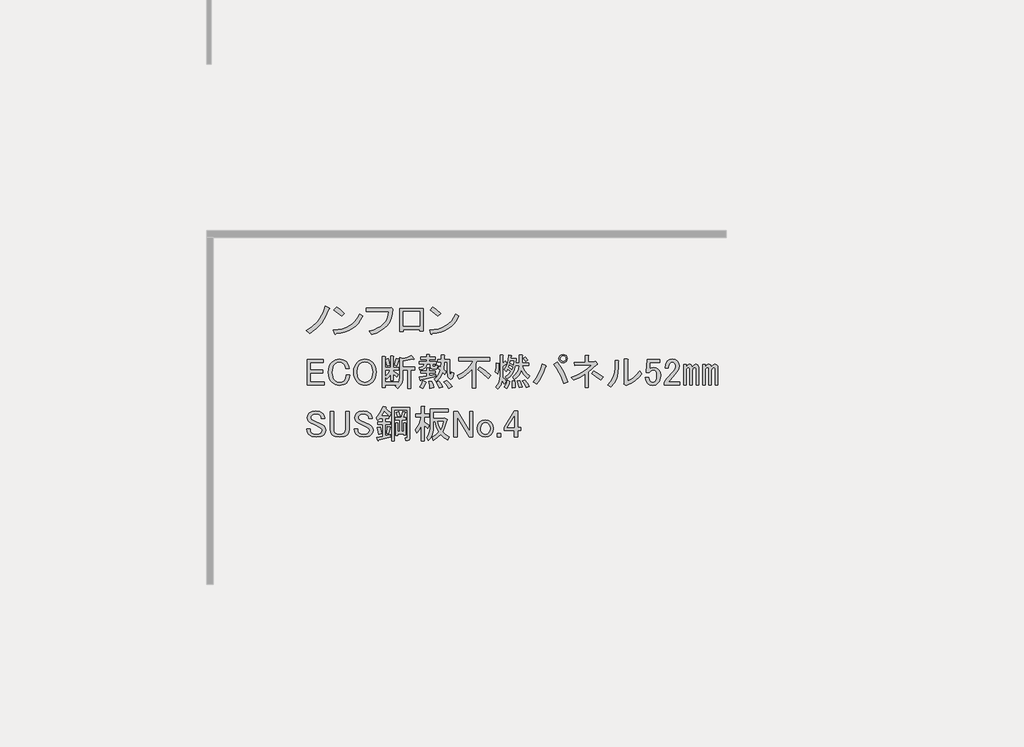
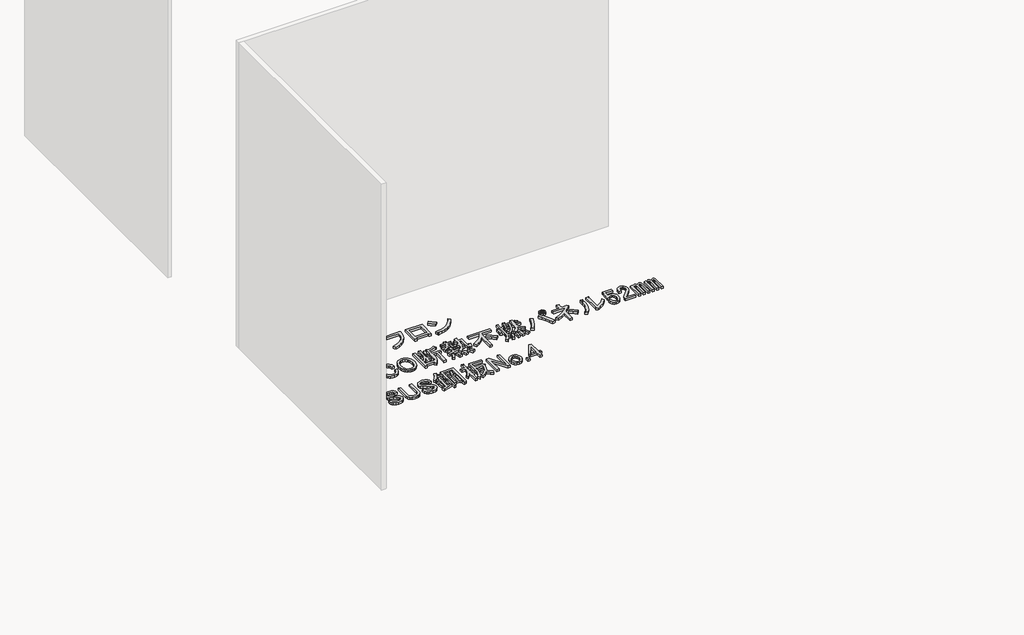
# One storey, part 107 of 117: 1 proxy.
"""IFC4 building model written with IfcOpenShell, lengths in millimetres."""

from ifc_helpers import new_model, si_unit, frame, origin, place, context, project, spatial, polyline, outline, extrude, element, save

model = new_model("IFC4")

# Units and contexts
model_context = context("Model", 3, world=origin())
ifc_project = project(units=[si_unit("LENGTHUNIT", "METRE", prefix="MILLI")], contexts=[model_context])

# Site, building, storey
site = spatial("IfcSite", under=ifc_project)
building = spatial("IfcBuilding", under=site)
storey = spatial("IfcBuildingStorey", under=building, Name="レベル 1", Elevation=500.0)

# Proxy
placement = place(None, origin())
element("IfcBuildingElementProxy", 1, Name="200㎜\u3000MS Pゴシック", ObjectType="200㎜\u3000MS Pゴシック", at=placement, inside=storey, context=model_context, shape_type="SweptSolid", body=[
    extrude(outline(polyline([(48940.1706985, 7396.4503118), (48914.5952502, 7336.6784775), (48886.146156, 7290.7001434), (48844.4782907, 7245.2965385), (48795.3389462, 7207.939142), (48767.7519457, 7229.7788507), (48815.4544673, 7260.2394971), (48855.1107805, 7298.7463519), (48872.4963381, 7322.6694538), (48887.8703435, 7350.7593423), (48901.2327969, 7383.0160173), (48912.5836981, 7419.4394788), (48943.6190736, 7405.6459786), (48946.7800841, 7401.0481452), (48940.1706985, 7396.4503118)])), frame((0.0, 0.0, 500.0), z_axis=(0.0, 0.0, 1.0), x_axis=(1.0, 0.0, 0.0)), (0.0, 0.0, 1.0), 25.0),
    extrude(outline(polyline([(49039.8977052, 7341.2763109), (48981.2753292, 7388.4041033), (49000.8161212, 7412.5427287), (49028.1157571, 7392.7145721), (49061.7374138, 7363.1160196), (49039.8977052, 7341.2763109)])), frame((0.0, 0.0, 500.0), z_axis=(0.0, 0.0, 1.0), x_axis=(1.0, 0.0, 0.0)), (0.0, 0.0, 1.0), 25.0),
    extrude(outline(polyline([(49201.9713328, 7341.2763109), (49185.447869, 7311.534076), (49166.3381239, 7285.5275808), (49144.6420975, 7263.2568252), (49120.3597898, 7244.7218093), (49093.4912008, 7229.922533), (49064.0363306, 7218.8589964), (49031.995179, 7211.5311994), (48997.3677461, 7207.939142), (48991.6204544, 7199.8929336), (48985.8731626, 7205.6402253), (48976.6774958, 7235.5261425), (49012.5082679, 7238.2022252), (49045.2857912, 7244.5062859), (49075.0100658, 7254.4383244), (49101.6810916, 7267.9983409), (49125.2988687, 7285.1863354), (49145.863397, 7306.0023077), (49163.3746766, 7330.446258), (49177.8327074, 7358.5181862), (49201.9713328, 7341.2763109)])), frame((0.0, 0.0, 500.0), z_axis=(0.0, 0.0, 1.0), x_axis=(1.0, 0.0, 0.0)), (0.0, 0.0, 1.0), 25.0),
    extrude(outline(polyline([(49252.7314136, 7226.3304757), (49286.514713, 7236.0110702), (49316.0234641, 7248.3857078), (49341.257667, 7263.4543884), (49362.2173217, 7281.217112), (49378.902428, 7301.6738786), (49391.3129862, 7324.8246882), (49399.4489961, 7350.6695409), (49403.3104577, 7379.2084365), (49230.8917049, 7379.2084365), (49230.8917049, 7404.4965202), (49405.6093744, 7404.4965202), (49421.7017914, 7407.9448953), (49434.3458332, 7396.4503118), (49430.825617, 7359.9550091), (49422.5638851, 7326.9080815), (49409.5606375, 7297.3095289), (49391.8158742, 7271.1593514), (49369.3295952, 7248.457549), (49342.1018005, 7229.2041216), (49310.1324901, 7213.3990692), (49273.421664, 7201.0423919), (49252.7314136, 7226.3304757)])), frame((0.0, 0.0, 500.0), z_axis=(0.0, 0.0, 1.0), x_axis=(1.0, 0.0, 0.0)), (0.0, 0.0, 1.0), 25.0),
    extrude(outline(polyline([(49667.455987, 7227.479934), (49641.0184449, 7227.479934), (49641.0184449, 7240.1239759), (49513.4285679, 7240.1239759), (49513.4285679, 7221.7326423), (49486.9910258, 7221.7326423), (49486.9910258, 7401.0481452), (49667.455987, 7401.0481452), (49667.455987, 7227.479934)]), holes=[polyline([(49513.4285679, 7375.7600614), (49513.4285679, 7265.4120596), (49641.0184449, 7265.4120596), (49641.0184449, 7375.7600614), (49513.4285679, 7375.7600614)])]), frame((0.0, 0.0, 500.0), z_axis=(0.0, 0.0, 1.0), x_axis=(1.0, 0.0, 0.0)), (0.0, 0.0, 1.0), 25.0),
    extrude(outline(polyline([(49943.5099049, 7341.2763109), (49926.9864411, 7311.534076), (49907.876696, 7285.5275808), (49886.1806696, 7263.2568252), (49861.8983619, 7244.7218093), (49835.0297729, 7229.922533), (49805.5749026, 7218.8589964), (49773.5337511, 7211.5311994), (49738.9063182, 7207.939142), (49733.1590264, 7199.8929336), (49727.4117347, 7205.6402253), (49718.2160679, 7235.5261425), (49754.0468399, 7238.2022252), (49786.8243633, 7244.5062859), (49816.5486378, 7254.4383244), (49843.2196637, 7267.9983409), (49866.8374407, 7285.1863354), (49887.4019691, 7306.0023077), (49904.9132486, 7330.446258), (49919.3712795, 7358.5181862), (49943.5099049, 7341.2763109)])), frame((0.0, 0.0, 500.0), z_axis=(0.0, 0.0, 1.0), x_axis=(1.0, 0.0, 0.0)), (0.0, 0.0, 1.0), 25.0),
    extrude(outline(polyline([(49781.4362772, 7341.2763109), (49722.8139013, 7388.4041033), (49742.3546933, 7412.5427287), (49769.6543291, 7392.7145721), (49803.2759859, 7363.1160196), (49781.4362772, 7341.2763109)])), frame((0.0, 0.0, 500.0), z_axis=(0.0, 0.0, 1.0), x_axis=(1.0, 0.0, 0.0)), (0.0, 0.0, 1.0), 25.0),
    extrude(outline(polyline([(48773.4992375, 7007.9448953), (48899.9396562, 7007.9448953), (48899.9396562, 6986.1051866), (48799.9367796, 6986.1051866), (48799.9367796, 6925.183894), (48893.0429061, 6925.183894), (48893.0429061, 6903.3441853), (48799.9367796, 6903.3441853), (48799.9367796, 6833.2272258), (48905.686948, 6833.2272258), (48905.686948, 6811.3875171), (48773.4992375, 6811.3875171), (48773.4992375, 7007.9448953)])), frame((0.0, 0.0, 500.0), z_axis=(0.0, 0.0, 1.0), x_axis=(1.0, 0.0, 0.0)), (0.0, 0.0, 1.0), 25.0),
    extrude(outline(polyline([(48937.7798252, 6909.091477), (48939.5758538, 6933.014579), (48944.9639399, 6954.2077173), (48953.9440832, 6972.6708921), (48966.516284, 6988.4041033), (48991.5170031, 7004.7838848), (49022.8397432, 7010.243812), (49053.5877541, 7005.358614), (49076.8642858, 6990.70302), (49092.6693381, 6967.1391238), (49098.7039944, 6937.8279358), (49071.116994, 6937.8279358), (49066.231796, 6959.0929153), (49056.1740354, 6974.6106031), (49040.9437123, 6984.9557283), (49022.8397432, 6988.4041033), (49003.2989512, 6984.3809991), (48986.0570759, 6972.3116864), (48977.0050914, 6960.6015794), (48970.5393882, 6946.1615089), (48965.3668256, 6909.091477), (48970.5393882, 6872.0214452), (48977.0050914, 6857.5813746), (48986.0570759, 6845.8712677), (49002.7242221, 6834.6640487), (49022.8397432, 6830.9283091), (49043.242629, 6834.0893196), (49058.4729521, 6843.572351), (49070.5422648, 6863.1131429), (49074.5653691, 6889.550685), (49102.1523695, 6889.550685), (49095.8303486, 6854.7795699), (49088.7899162, 6840.6268639), (49079.1632025, 6828.6293924), (49068.3151893, 6820.0802959), (49055.3119417, 6813.9737984), (49022.8397432, 6809.0886004), (48991.5170031, 6814.5485276), (48966.516284, 6830.9283091), (48953.9440832, 6846.5896791), (48944.9639399, 6864.8373305), (48939.5758538, 6885.6712631), (48937.7798252, 6909.091477)])), frame((0.0, 0.0, 500.0), z_axis=(0.0, 0.0, 1.0), x_axis=(1.0, 0.0, 0.0)), (0.0, 0.0, 1.0), 25.0),
    extrude(outline(polyline([(49133.1417667, 6910.2409354), (49134.8659542, 6933.0864201), (49140.0385168, 6953.3456236), (49148.6594544, 6971.0185457), (49160.7287671, 6986.1051866), (49173.4446501, 6996.6658352), (49187.4536738, 7004.2091557), (49202.7558381, 7008.7351479), (49219.3511431, 7010.243812), (49235.946448, 7008.7351479), (49251.2486123, 7004.2091557), (49265.257636, 6996.6658352), (49277.973519, 6986.1051866), (49290.0428317, 6971.0185457), (49298.6637694, 6953.3456236), (49303.836332, 6933.0864201), (49305.5605195, 6910.2409354), (49303.836332, 6887.3954506), (49298.6637694, 6867.1362472), (49290.0428317, 6849.463325), (49277.973519, 6834.3766841), (49265.257636, 6823.8160355), (49251.2486123, 6816.2727151), (49235.946448, 6811.7467228), (49219.3511431, 6810.2380587), (49202.7558381, 6811.7467228), (49187.4536738, 6816.2727151), (49173.4446501, 6823.8160355), (49160.7287671, 6834.3766841), (49148.6594544, 6849.463325), (49140.0385168, 6867.1362472), (49134.8659542, 6887.3954506), (49133.1417667, 6910.2409354)]), holes=[polyline([(49219.3511431, 6988.4041033), (49198.6608927, 6984.0936345), (49180.2695591, 6971.162228), (49171.7204626, 6960.0268502), (49165.6139651, 6946.1615089), (49160.7287671, 6910.2409354), (49165.6139651, 6874.3203619), (49171.7204626, 6860.4550205), (49180.2695591, 6849.3196427), (49198.6608927, 6836.3882363), (49219.3511431, 6832.0777674), (49240.0413934, 6836.3882363), (49258.432727, 6849.3196427), (49266.9818235, 6860.4550205), (49273.088321, 6874.3203619), (49277.973519, 6910.2409354), (49273.088321, 6946.1615089), (49266.9818235, 6960.0268502), (49258.432727, 6971.162228), (49240.0413934, 6984.0936345), (49219.3511431, 6988.4041033)])]), frame((0.0, 0.0, 500.0), z_axis=(0.0, 0.0, 1.0), x_axis=(1.0, 0.0, 0.0)), (0.0, 0.0, 1.0), 25.0),
    extrude(outline(polyline([(49444.3691101, 6964.2654779), (49461.6109854, 7017.1405621), (49482.3012357, 7011.3932704), (49484.0254232, 7008.2322599), (49480.002319, 7005.6459786), (49462.7604437, 6957.3687278), (49444.3691101, 6964.2654779)])), frame((0.0, 0.0, 500.0), z_axis=(0.0, 0.0, 1.0), x_axis=(1.0, 0.0, 0.0)), (0.0, 0.0, 1.0), 25.0),
    extrude(outline(polyline([(49598.3965292, 7012.5427287), (49596.6723417, 7007.9448953), (49589.2008624, 7010.243812), (49512.1871528, 6997.5997701), (49512.1871528, 6948.173061), (49604.143821, 6948.173061), (49604.143821, 6926.3333523), (49573.1084455, 6926.3333523), (49573.1084455, 6786.0994334), (49550.1192785, 6786.0994334), (49550.1192785, 6926.3333523), (49512.1871528, 6926.3333523), (49512.1871528, 6876.9066432), (49509.6008716, 6849.1041193), (49501.8420277, 6824.3189236), (49488.9106212, 6802.551056), (49470.8066522, 6783.8005167), (49453.5647769, 6803.3413086), (49463.9099021, 6812.5369755), (49374.2521506, 6812.5369755), (49374.2521506, 6790.6972668), (49351.2629836, 6790.6972668), (49351.2629836, 7029.784604), (49373.1026922, 7029.784604), (49377.9878902, 7027.4856873), (49374.2521506, 7022.8878539), (49374.2521506, 6947.0236026), (49416.7821096, 6947.0236026), (49416.7821096, 7034.3824374), (49435.1734433, 7034.3824374), (49440.0586413, 7032.0835207), (49436.3229016, 7027.4856873), (49436.3229016, 6947.0236026), (49480.002319, 6947.0236026), (49480.002319, 6928.632269), (49436.3229016, 6928.632269), (49436.3229016, 6919.4366022), (49476.5539439, 6892.9990601), (49462.7604437, 6871.1593514), (49436.3229016, 6897.5968935), (49436.3229016, 6844.7218093), (49416.7821096, 6844.7218093), (49416.7821096, 6892.9990601), (49403.5633386, 6873.1709035), (49389.1951092, 6857.3658512), (49376.5510673, 6875.7571848), (49398.390776, 6899.8958102), (49415.6326513, 6928.632269), (49374.2521506, 6928.632269), (49374.2521506, 6834.3766841), (49471.9561105, 6834.3766841), (49471.9561105, 6820.5831839), (49484.887517, 6844.7218093), (49489.1979858, 6878.0561015), (49489.1979858, 7022.8878539), (49511.0376945, 7017.1405621), (49547.2456326, 7024.6120414), (49577.7062789, 7037.8308125), (49598.3965292, 7012.5427287)])), frame((0.0, 0.0, 500.0), z_axis=(0.0, 0.0, 1.0), x_axis=(1.0, 0.0, 0.0)), (0.0, 0.0, 1.0), 25.0),
    extrude(outline(polyline([(49390.3445675, 6956.2192695), (49377.7005257, 7006.7954369), (49397.2413176, 7013.6921871), (49405.0001615, 6989.5535617), (49409.8853595, 6963.1160196), (49390.3445675, 6956.2192695)])), frame((0.0, 0.0, 500.0), z_axis=(0.0, 0.0, 1.0), x_axis=(1.0, 0.0, 0.0)), (0.0, 0.0, 1.0), 25.0),
    extrude(outline(polyline([(49734.0326148, 6840.1239759), (49744.0903754, 6812.82434), (49748.9755734, 6790.6972668), (49720.2391146, 6784.949975), (49717.6528333, 6806.5023191), (49709.8939894, 6836.6756008), (49734.0326148, 6840.1239759)])), frame((0.0, 0.0, 500.0), z_axis=(0.0, 0.0, 1.0), x_axis=(1.0, 0.0, 0.0)), (0.0, 0.0, 1.0), 25.0),
    extrude(outline(polyline([(49790.356074, 6787.2488917), (49782.022501, 6811.9622463), (49768.5163654, 6833.2272258), (49789.2066157, 6841.2734343), (49806.1611264, 6819.7210902), (49817.9430745, 6796.4445585), (49790.356074, 6787.2488917)])), frame((0.0, 0.0, 500.0), z_axis=(0.0, 0.0, 1.0), x_axis=(1.0, 0.0, 0.0)), (0.0, 0.0, 1.0), 25.0),
    extrude(outline(polyline([(49689.2037391, 6835.5261425), (49692.6521141, 6830.6409445), (49686.9048224, 6827.479934), (49677.1344264, 6801.9044857), (49666.214572, 6782.6510583), (49643.225405, 6794.1456418), (49655.8694469, 6817.709538), (49666.214572, 6844.7218093), (49689.2037391, 6835.5261425)])), frame((0.0, 0.0, 500.0), z_axis=(0.0, 0.0, 1.0), x_axis=(1.0, 0.0, 0.0)), (0.0, 0.0, 1.0), 25.0),
    extrude(outline(polyline([(49721.3885729, 6972.3116864), (49696.1004892, 6972.3116864), (49691.5026558, 6954.8542877), (49681.1575306, 6941.5636755), (49665.0651137, 6932.4398498), (49643.225405, 6927.4828107), (49638.6275716, 6947.0236026), (49663.9156553, 6955.6445403), (49671.3871346, 6962.9723373), (49675.4102388, 6972.3116864), (49639.7770299, 6972.3116864), (49639.7770299, 6990.70302), (49693.8015725, 6990.70302), (49693.8015725, 7007.9448953), (49650.1221551, 7007.9448953), (49650.1221551, 7026.3362289), (49693.8015725, 7026.3362289), (49693.8015725, 7044.7275626), (49715.6412812, 7044.7275626), (49720.5264792, 7042.4286459), (49716.7907395, 7037.8308125), (49716.7907395, 7026.3362289), (49759.3206985, 7026.3362289), (49759.3206985, 7007.9448953), (49716.7907395, 7007.9448953), (49716.7907395, 6990.70302), (49769.6658237, 6990.70302), (49769.6658237, 6972.3116864), (49740.9293649, 6972.3116864), (49740.9293649, 6959.6676445), (49742.3661878, 6954.4950819), (49746.6766567, 6952.7708944), (49757.0217818, 6952.7708944), (49760.7575215, 6955.9319049), (49760.4701569, 6965.4149363), (49780.0109489, 6963.1160196), (49777.137303, 6941.5636755), (49771.8210581, 6936.1755894), (49763.9185319, 6934.3795608), (49739.7799066, 6934.3795608), (49725.9864063, 6939.2647588), (49721.3885729, 6953.9203528), (49721.3885729, 6972.3116864)])), frame((0.0, 0.0, 500.0), z_axis=(0.0, 0.0, 1.0), x_axis=(1.0, 0.0, 0.0)), (0.0, 0.0, 1.0), 25.0),
    extrude(outline(polyline([(49852.4268251, 6989.5535617), (49830.5871164, 6989.5535617), (49825.989283, 6932.0806441), (49845.5300749, 6913.6893104), (49835.1849498, 6891.8496017), (49819.0925328, 6907.9420187), (49799.8391054, 6870.2972576), (49769.6658237, 6837.8250592), (49752.4239484, 6858.5153095), (49767.5105893, 6870.4409399), (49780.585678, 6885.5275808), (49791.6492147, 6903.7752321), (49800.7011992, 6925.183894), (49783.4593239, 6940.1268525), (49791.5055324, 6957.3687278), (49805.2990326, 6947.0236026), (49807.5979493, 6989.5535617), (49780.0109489, 6989.5535617), (49780.0109489, 7007.9448953), (49807.5979493, 7007.9448953), (49807.5979493, 7042.4286459), (49829.437658, 7042.4286459), (49834.322856, 7040.1297292), (49830.5871164, 7035.5318957), (49830.5871164, 7007.9448953), (49871.967617, 7007.9448953), (49871.967617, 6911.3903937), (49875.4159921, 6887.2517683), (49878.6488437, 6885.2402162), (49881.4506484, 6888.4012267), (49885.7611173, 6910.2409354), (49905.3019092, 6903.3441853), (49900.775917, 6876.5474374), (49892.945232, 6860.5268616), (49881.8098542, 6855.2824579), (49867.3697836, 6860.8142262), (49860.8322393, 6868.1420232), (49856.1625647, 6879.780289), (49852.4268251, 6915.9882271), (49852.4268251, 6989.5535617)])), frame((0.0, 0.0, 500.0), z_axis=(0.0, 0.0, 1.0), x_axis=(1.0, 0.0, 0.0)), (0.0, 0.0, 1.0), 25.0),
    extrude(outline(polyline([(49651.2716134, 6850.4691011), (49649.2600613, 6845.5839031), (49645.5243217, 6847.020726), (49639.7770299, 6871.1593514), (49694.9510308, 6879.2055599), (49694.9510308, 6902.1947269), (49651.2716134, 6902.1947269), (49651.2716134, 6920.5860605), (49694.9510308, 6920.5860605), (49694.9510308, 6943.5752276), (49713.3423645, 6943.5752276), (49718.2275625, 6941.2763109), (49714.4918228, 6936.6784775), (49714.4918228, 6920.5860605), (49759.3206985, 6920.5860605), (49759.3206985, 6902.1947269), (49714.4918228, 6902.1947269), (49714.4918228, 6882.6539349), (49765.0679903, 6891.8496017), (49765.0679903, 6875.7571848), (49651.2716134, 6850.4691011)])), frame((0.0, 0.0, 500.0), z_axis=(0.0, 0.0, 1.0), x_axis=(1.0, 0.0, 0.0)), (0.0, 0.0, 1.0), 25.0),
    extrude(outline(polyline([(49848.97845, 6845.8712677), (49873.6918046, 6824.6062881), (49892.6578674, 6799.8929336), (49866.2203253, 6784.949975), (49846.9668979, 6814.5485276), (49828.2881997, 6834.3766841), (49848.97845, 6845.8712677)])), frame((0.0, 0.0, 500.0), z_axis=(0.0, 0.0, 1.0), x_axis=(1.0, 0.0, 0.0)), (0.0, 0.0, 1.0), 25.0),
    extrude(outline(polyline([(50167.3784135, 6861.9636846), (50128.2968295, 6900.1831748), (50086.9163289, 6929.7817274), (50103.0087458, 6950.4719777), (50146.6881632, 6922.3102481), (50188.0686638, 6883.8033933), (50167.3784135, 6861.9636846)])), frame((0.0, 0.0, 500.0), z_axis=(0.0, 0.0, 1.0), x_axis=(1.0, 0.0, 0.0)), (0.0, 0.0, 1.0), 25.0),
    extrude(outline(polyline([(49940.9351182, 7022.8878539), (50182.3213721, 7022.8878539), (50182.3213721, 6997.5997701), (50082.3184955, 6997.5997701), (50071.9733703, 6973.4611447), (50071.9733703, 6787.2488917), (50045.5358282, 6787.2488917), (50045.5358282, 6934.3795608), (50024.7018956, 6911.1030291), (50001.2816816, 6890.7001434), (49975.2751864, 6873.1709035), (49946.6824099, 6858.5153095), (49930.589993, 6884.9528516), (49970.174465, 6905.3557374), (50003.8679629, 6930.9311857), (50031.6704868, 6961.6791966), (50053.5820367, 6997.5997701), (49940.9351182, 6997.5997701), (49940.9351182, 7022.8878539)])), frame((0.0, 0.0, 500.0), z_axis=(0.0, 0.0, 1.0), x_axis=(1.0, 0.0, 0.0)), (0.0, 0.0, 1.0), 25.0),
    extrude(outline(polyline([(50354.7401249, 6788.3983501), (50355.3148541, 6815.4106213), (50352.4412082, 6843.572351), (50371.9820002, 6844.7218093), (50378.3040211, 6818.5716318), (50378.8787503, 6790.6972668), (50354.7401249, 6788.3983501)])), frame((0.0, 0.0, 500.0), z_axis=(0.0, 0.0, 1.0), x_axis=(1.0, 0.0, 0.0)), (0.0, 0.0, 1.0), 25.0),
    extrude(outline(polyline([(50335.1993329, 6840.1239759), (50326.5783953, 6809.6633296), (50312.2101659, 6782.6510583), (50292.6693739, 6795.2951002), (50306.7502387, 6820.0084547), (50316.8079993, 6848.1701844), (50335.1993329, 6840.1239759)])), frame((0.0, 0.0, 500.0), z_axis=(0.0, 0.0, 1.0), x_axis=(1.0, 0.0, 0.0)), (0.0, 0.0, 1.0), 25.0),
    extrude(outline(polyline([(50250.1394149, 6978.0589781), (50254.7372483, 6975.7600614), (50250.1394149, 6971.162228), (50248.9899565, 6931.5059149), (50243.2426647, 6897.5968935), (50224.8513311, 6910.2409354), (50230.5986229, 6944.7246859), (50231.7480812, 6981.5073532), (50250.1394149, 6978.0589781)])), frame((0.0, 0.0, 500.0), z_axis=(0.0, 0.0, 1.0), x_axis=(1.0, 0.0, 0.0)), (0.0, 0.0, 1.0), 25.0),
    extrude(outline(polyline([(50301.8650407, 6996.4503118), (50311.0607075, 6979.2084365), (50312.4975305, 6973.1737801), (50307.6123325, 6973.4611447), (50281.1747904, 6952.7708944), (50281.1747904, 6868.8604347), (50294.9682906, 6856.5037574), (50306.4628741, 6840.1239759), (50293.8188322, 6819.4337256), (50275.4274986, 6844.7218093), (50263.6455505, 6808.8012358), (50242.0932064, 6779.2026832), (50227.1502478, 6797.5940169), (50242.2368887, 6816.3445562), (50253.0130607, 6836.9629654), (50259.478764, 6859.4492444), (50261.6339984, 6883.8033933), (50261.6339984, 7041.2791875), (50280.025332, 7041.2791875), (50284.91053, 7038.9802708), (50281.1747904, 7034.3824374), (50281.1747904, 6975.7600614), (50301.8650407, 6996.4503118)])), frame((0.0, 0.0, 500.0), z_axis=(0.0, 0.0, 1.0), x_axis=(1.0, 0.0, 0.0)), (0.0, 0.0, 1.0), 25.0),
    extrude(outline(polyline([(50452.4440848, 7027.4856873), (50474.2837935, 7003.3470619), (50457.0419182, 6991.8524784), (50450.4325327, 7003.3470619), (50437.5011262, 7017.1405621), (50452.4440848, 7027.4856873)])), frame((0.0, 0.0, 500.0), z_axis=(0.0, 0.0, 1.0), x_axis=(1.0, 0.0, 0.0)), (0.0, 0.0, 1.0), 25.0),
    extrude(outline(polyline([(50462.78921, 6790.6972668), (50449.5704389, 6818.8589964), (50432.9032928, 6843.572351), (50451.2946265, 6851.6185594), (50470.2606893, 6828.6293924), (50485.778377, 6801.0423919), (50462.78921, 6790.6972668)])), frame((0.0, 0.0, 500.0), z_axis=(0.0, 0.0, 1.0), x_axis=(1.0, 0.0, 0.0)), (0.0, 0.0, 1.0), 25.0),
    extrude(outline(polyline([(50413.3625008, 6845.8712677), (50431.7538345, 6796.4445585), (50407.6152091, 6791.8467251), (50393.8217089, 6842.4228926), (50413.3625008, 6845.8712677)])), frame((0.0, 0.0, 500.0), z_axis=(0.0, 0.0, 1.0), x_axis=(1.0, 0.0, 0.0)), (0.0, 0.0, 1.0), 25.0),
    extrude(outline(polyline([(50474.2837935, 6860.8142262), (50443.5357826, 6891.2748726), (50422.5581677, 6925.183894), (50414.1527535, 6903.0568207), (50402.7300111, 6883.8033933), (50388.2899405, 6867.4236118), (50370.8325418, 6853.9174761), (50357.0390416, 6872.3088098), (50377.8729742, 6891.2030314), (50393.2469797, 6912.2524875), (50403.161058, 6935.457178), (50407.6152091, 6960.8171029), (50378.8787503, 6960.8171029), (50370.904383, 6930.2127742), (50357.3264062, 6902.7694561), (50338.1448199, 6878.4871484), (50313.3596242, 6857.3658512), (50300.7155823, 6873.4582681), (50326.5783953, 6895.0106122), (50342.096083, 6915.9882271), (50320.2563743, 6935.5290191), (50306.4628741, 6914.8387688), (50292.6693739, 6929.7817274), (50305.0978923, 6948.8196313), (50314.7964472, 6973.7485093), (50321.7650384, 7004.5683614), (50326.0036661, 7041.2791875), (50346.6939164, 7038.9802708), (50350.1422915, 7036.3939895), (50344.3949997, 7033.232979), (50342.096083, 7014.8416454), (50385.7755004, 7014.8416454), (50382.3271253, 6979.2084365), (50407.6152091, 6979.2084365), (50407.6152091, 7041.2791875), (50429.4549178, 7041.2791875), (50434.3401158, 7038.9802708), (50430.6043761, 7034.3824374), (50430.6043761, 6979.2084365), (50480.0310853, 6979.2084365), (50480.0310853, 6960.8171029), (50430.6043761, 6960.8171029), (50437.1419205, 6939.0492353), (50448.7083452, 6918.5745084), (50465.3036501, 6899.3929222), (50486.9278354, 6881.5044766), (50474.2837935, 6860.8142262)]), holes=[polyline([(50350.1422915, 6930.9311857), (50357.0390416, 6950.4719777), (50331.7509579, 6966.5643946), (50326.0036661, 6949.3225193), (50350.1422915, 6930.9311857)]), polyline([(50339.7971663, 6996.4503118), (50336.3487913, 6980.3578948), (50361.636875, 6966.5643946), (50366.2347084, 6996.4503118), (50339.7971663, 6996.4503118)])]), frame((0.0, 0.0, 500.0), z_axis=(0.0, 0.0, 1.0), x_axis=(1.0, 0.0, 0.0)), (0.0, 0.0, 1.0), 25.0),
    extrude(outline(polyline([(50699.5776305, 6987.254645), (50726.230696, 6950.5438188), (50748.7169751, 6912.8272167), (50767.0364675, 6874.1048384), (50781.1891735, 6834.3766841), (50750.153798, 6824.031559), (50734.7079514, 6867.1362472), (50717.1068704, 6905.643102), (50697.350555, 6939.5521234), (50675.4390051, 6968.8633113), (50699.5776305, 6987.254645)])), frame((0.0, 0.0, 500.0), z_axis=(0.0, 0.0, 1.0), x_axis=(1.0, 0.0, 0.0)), (0.0, 0.0, 1.0), 25.0),
    extrude(outline(polyline([(50612.2187958, 6960.8171029), (50616.2419, 6955.3571757), (50609.919879, 6950.4719777), (50597.9942486, 6915.0542922), (50582.9076078, 6881.217112), (50564.6599564, 6848.960437), (50543.2512946, 6818.2842672), (50516.8137525, 6835.5261425), (50540.018443, 6866.9925649), (50559.056347, 6900.4705394), (50573.9274644, 6935.960066), (50584.6317953, 6973.4611447), (50612.2187958, 6960.8171029)])), frame((0.0, 0.0, 500.0), z_axis=(0.0, 0.0, 1.0), x_axis=(1.0, 0.0, 0.0)), (0.0, 0.0, 1.0), 25.0),
    extrude(outline(polyline([(50745.5559646, 6981.5073532), (50732.9119227, 6983.8062699), (50722.5667975, 6990.70302), (50715.6700474, 7001.0481452), (50713.3711307, 7013.6921871), (50715.6700474, 7026.3362289), (50722.5667975, 7036.6813541), (50732.9119227, 7043.5781042), (50745.5559646, 7045.8770209), (50758.2000065, 7043.5781042), (50768.5451316, 7036.6813541), (50775.4418817, 7026.3362289), (50777.7407984, 7013.6921871), (50775.4418817, 7001.0481452), (50768.5451316, 6990.70302), (50758.2000065, 6983.8062699), (50745.5559646, 6981.5073532)]), holes=[polyline([(50745.5559646, 6993.0019367), (50753.8895376, 6994.4387597), (50760.4989232, 6998.7492285), (50764.809392, 7005.358614), (50766.2462149, 7013.6921871), (50764.809392, 7022.0257601), (50760.4989232, 7028.6351456), (50753.8895376, 7032.9456145), (50745.5559646, 7034.3824374), (50737.2223915, 7032.9456145), (50730.613006, 7028.6351456), (50726.3025372, 7022.0257601), (50724.8657143, 7013.6921871), (50726.3025372, 7005.358614), (50730.613006, 6998.7492285), (50737.2223915, 6994.4387597), (50745.5559646, 6993.0019367)])]), frame((0.0, 0.0, 500.0), z_axis=(0.0, 0.0, 1.0), x_axis=(1.0, 0.0, 0.0)), (0.0, 0.0, 1.0), 25.0),
    extrude(outline(polyline([(50989.2411352, 6991.8524784), (50996.1378853, 6994.1513951), (51008.7819272, 6976.9095198), (51009.9313856, 6970.8748634), (51004.1840938, 6968.8633113), (50940.9638844, 6912.5398521), (50940.9638844, 6791.8467251), (50914.5263423, 6791.8467251), (50914.5263423, 6894.1485184), (50874.2953, 6870.0098931), (50829.4664243, 6848.1701844), (50809.9256323, 6868.8604347), (50855.4729195, 6888.3293855), (50896.7097379, 6911.1030291), (50933.6360874, 6937.1813655), (50966.2519682, 6966.5643946), (50836.3631744, 6960.8171029), (50832.9147993, 6986.1051866), (50914.5263423, 6988.4041033), (50914.5263423, 7040.1297292), (50937.5155094, 7040.1297292), (50943.5501657, 7036.6813541), (50940.9638844, 7030.9340623), (50940.9638844, 6989.5535617), (50989.2411352, 6991.8524784)])), frame((0.0, 0.0, 500.0), z_axis=(0.0, 0.0, 1.0), x_axis=(1.0, 0.0, 0.0)), (0.0, 0.0, 1.0), 25.0),
    extrude(outline(polyline([(51035.2194693, 6848.1701844), (50998.1494375, 6877.4813723), (50965.1025098, 6898.7463519), (50982.3443851, 6920.5860605), (51021.1386045, 6897.3095289), (51054.7602613, 6871.1593514), (51035.2194693, 6848.1701844)])), frame((0.0, 0.0, 500.0), z_axis=(0.0, 0.0, 1.0), x_axis=(1.0, 0.0, 0.0)), (0.0, 0.0, 1.0), 25.0),
    extrude(outline(polyline([(51242.2139293, 6841.2734343), (51266.9991251, 6853.4864292), (51290.7785447, 6870.5846222), (51313.5521883, 6892.5680132), (51335.3200559, 6919.4366022), (51351.4124728, 6897.5968935), (51328.1359412, 6869.7943696), (51301.9857636, 6846.1586322), (51272.9619403, 6826.6896814), (51241.064471, 6811.3875171), (51231.8688042, 6806.7896837), (51213.4774705, 6820.5831839), (51215.7763872, 6826.3304757), (51215.7763872, 7011.3932704), (51239.9150126, 7011.3932704), (51245.6623044, 7007.9448953), (51242.2139293, 7002.1976035), (51242.2139293, 6841.2734343)])), frame((0.0, 0.0, 500.0), z_axis=(0.0, 0.0, 1.0), x_axis=(1.0, 0.0, 0.0)), (0.0, 0.0, 1.0), 25.0),
    extrude(outline(polyline([(51088.1865102, 6810.2380587), (51113.3309116, 6839.4774056), (51131.2911984, 6872.0214452), (51142.0673704, 6907.8701775), (51145.6594278, 6947.0236026), (51145.6594278, 6998.7492285), (51169.7980532, 6998.7492285), (51175.5453449, 6995.3008534), (51172.0969699, 6989.5535617), (51172.0969699, 6948.173061), (51168.2893891, 6902.4102504), (51156.8666467, 6861.67632), (51137.8287427, 6825.9712699), (51111.1756772, 6795.2951002), (51088.1865102, 6810.2380587)])), frame((0.0, 0.0, 500.0), z_axis=(0.0, 0.0, 1.0), x_axis=(1.0, 0.0, 0.0)), (0.0, 0.0, 1.0), 25.0),
    extrude(outline(polyline([(51392.7929735, 7007.9448953), (51491.6463917, 7007.9448953), (51491.6463917, 6986.1051866), (51414.6326821, 6986.1051866), (51414.6326821, 6982.6568116), (51411.1843071, 6940.1268525), (51410.0348487, 6933.2301024), (51425.5525365, 6943.5752276), (51442.2196826, 6947.0236026), (51463.1972975, 6943.287863), (51480.1518082, 6932.0806441), (51492.2211209, 6912.2524875), (51496.2442251, 6884.9528516), (51491.0716626, 6850.4691011), (51484.6059593, 6836.6756008), (51475.5539748, 6825.1810173), (51457.4500058, 6813.1117046), (51435.3229325, 6809.0886004), (51414.3453176, 6812.82434), (51397.3908069, 6824.031559), (51385.3214942, 6842.7102572), (51378.9994732, 6868.8604347), (51405.4370153, 6868.8604347), (51409.4601196, 6850.1817365), (51416.9315989, 6837.8250592), (51424.6904427, 6832.6524966), (51434.1734741, 6830.9283091), (51446.5301514, 6832.9398612), (51456.0131828, 6838.9745175), (51465.4962142, 6855.9290282), (51468.6572247, 6881.5044766), (51466.0709434, 6905.643102), (51458.3120995, 6920.5860605), (51450.8406202, 6925.7586231), (51442.2196826, 6927.4828107), (51429.2882761, 6924.8965294), (51418.0810572, 6917.1376855), (51408.8853904, 6906.7925603), (51385.8962233, 6906.7925603), (51387.0456817, 6914.8387688), (51392.7929735, 7003.3470619), (51392.7929735, 7007.9448953)])), frame((0.0, 0.0, 500.0), z_axis=(0.0, 0.0, 1.0), x_axis=(1.0, 0.0, 0.0)), (0.0, 0.0, 1.0), 25.0),
    extrude(outline(polyline([(51530.7279757, 6941.2763109), (51535.3258091, 6972.599051), (51549.1193093, 6995.3008534), (51565.4990909, 7006.5080724), (51584.7525182, 7010.243812), (51607.4543207, 7006.5080724), (51624.9835606, 6995.3008534), (51636.1907795, 6978.6337073), (51639.9265191, 6958.5181862), (51635.6160503, 6932.6553732), (51622.6846439, 6910.2409354), (51589.3503517, 6872.3088098), (51570.959018, 6851.6185594), (51557.1655178, 6833.2272258), (51643.3748942, 6833.2272258), (51643.3748942, 6811.3875171), (51526.1301423, 6811.3875171), (51526.1301423, 6830.9283091), (51532.1647986, 6844.7218093), (51545.6709343, 6863.1131429), (51592.7987267, 6914.8387688), (51607.4543207, 6936.1037483), (51612.3395187, 6958.5181862), (51610.040602, 6971.162228), (51603.1438519, 6981.5073532), (51595.385008, 6986.6799158), (51585.9019766, 6988.4041033), (51577.281039, 6986.6799158), (51569.8095597, 6981.5073532), (51560.3265283, 6965.1275717), (51557.1655178, 6941.2763109), (51530.7279757, 6941.2763109)])), frame((0.0, 0.0, 500.0), z_axis=(0.0, 0.0, 1.0), x_axis=(1.0, 0.0, 0.0)), (0.0, 0.0, 1.0), 25.0),
    extrude(outline(polyline([(51692.8016033, 6810.2380587), (51673.2608114, 6810.2380587), (51673.2608114, 6967.713853), (51692.8016033, 6967.713853), (51692.8016033, 6950.4719777), (51704.870916, 6965.9896654), (51718.0896871, 6971.162228), (51727.2853539, 6969.7254051), (51734.182104, 6965.4149363), (51741.0788541, 6951.621436), (51754.0102606, 6966.27703), (51767.5163962, 6971.162228), (51775.8499693, 6969.7254051), (51782.4593548, 6965.4149363), (51787.6319174, 6956.7939986), (51789.3561049, 6944.7246859), (51789.3561049, 6810.2380587), (51769.8153129, 6810.2380587), (51769.8153129, 6934.3795608), (51767.2290316, 6943.8625922), (51759.4701878, 6947.0236026), (51749.1250626, 6942.4257692), (51743.0904062, 6933.8048316), (51741.0788541, 6924.0344356), (51741.0788541, 6810.2380587), (51721.5380621, 6810.2380587), (51721.5380621, 6934.3795608), (51718.9517808, 6943.8625922), (51711.192937, 6947.0236026), (51700.8478118, 6942.4257692), (51694.8131555, 6933.8048316), (51692.8016033, 6924.0344356), (51692.8016033, 6810.2380587)])), frame((0.0, 0.0, 500.0), z_axis=(0.0, 0.0, 1.0), x_axis=(1.0, 0.0, 0.0)), (0.0, 0.0, 1.0), 25.0),
    extrude(outline(polyline([(51914.6470653, 6971.162228), (51922.9806383, 6969.7254051), (51929.5900239, 6965.4149363), (51934.7625864, 6956.7939986), (51936.486774, 6944.7246859), (51936.486774, 6810.2380587), (51916.945982, 6810.2380587), (51916.945982, 6934.3795608), (51914.3597007, 6943.8625922), (51906.6008568, 6947.0236026), (51896.2557317, 6942.4257692), (51890.2210753, 6933.8048316), (51888.2095232, 6924.0344356), (51888.2095232, 6810.2380587), (51868.6687312, 6810.2380587), (51868.6687312, 6934.3795608), (51866.0824499, 6943.8625922), (51858.323606, 6947.0236026), (51847.9784809, 6942.4257692), (51841.9438245, 6933.8048316), (51839.9322724, 6924.0344356), (51839.9322724, 6810.2380587), (51820.3914804, 6810.2380587), (51820.3914804, 6967.713853), (51839.9322724, 6967.713853), (51839.9322724, 6950.4719777), (51852.0015851, 6965.9896654), (51865.2203561, 6971.162228), (51874.416023, 6969.7254051), (51881.3127731, 6965.4149363), (51888.2095232, 6951.621436), (51901.1409296, 6966.27703), (51914.6470653, 6971.162228)])), frame((0.0, 0.0, 500.0), z_axis=(0.0, 0.0, 1.0), x_axis=(1.0, 0.0, 0.0)), (0.0, 0.0, 1.0), 25.0),
    extrude(outline(polyline([(48775.7981542, 6556.2192695), (48779.8212584, 6576.6221552), (48791.8905711, 6594.1513951), (48812.2934569, 6606.2207078), (48841.3172803, 6610.243812), (48872.6400204, 6605.6459786), (48895.3418228, 6591.8524784), (48907.4111355, 6574.3232385), (48911.4342397, 6553.9203528), (48884.9966976, 6553.9203528), (48882.6977809, 6566.5643946), (48875.8010308, 6576.9095198), (48862.5822598, 6584.6683637), (48843.616197, 6587.254645), (48823.2133112, 6584.9557283), (48810.2819048, 6578.0589781), (48804.2472484, 6569.4380405), (48802.2356963, 6559.6676445), (48806.8335297, 6544.7246859), (48827.52378, 6533.2301024), (48887.2956143, 6506.7925603), (48904.5374896, 6495.2979768), (48914.020521, 6481.5044766), (48917.1815315, 6465.4120596), (48913.1584273, 6444.1470801), (48901.0891146, 6426.3304757), (48891.1031951, 6418.7871552), (48878.3873121, 6413.3990692), (48844.7656553, 6409.0886004), (48811.1439985, 6414.261163), (48797.5660217, 6420.7268662), (48786.1432794, 6429.7788507), (48774.9360604, 6448.1701844), (48771.2003208, 6473.4582681), (48797.6378629, 6473.4582681), (48799.9367796, 6455.6416637), (48806.8335297, 6443.572351), (48822.9259466, 6434.0893196), (48845.9151137, 6430.9283091), (48866.8927286, 6433.801955), (48881.5483226, 6442.4228926), (48888.4450727, 6451.6185594), (48890.7439894, 6460.8142262), (48889.0198019, 6470.2972576), (48883.8472393, 6478.0561015), (48865.4559057, 6489.550685), (48835.5699885, 6503.3441853), (48802.2356963, 6518.2871438), (48786.1432794, 6528.632269), (48778.3844355, 6540.7015817), (48775.7981542, 6556.2192695)])), frame((0.0, 0.0, 500.0), z_axis=(0.0, 0.0, 1.0), x_axis=(1.0, 0.0, 0.0)), (0.0, 0.0, 1.0), 25.0),
    extrude(outline(polyline([(48951.2054987, 6607.9448953), (48977.6430408, 6607.9448953), (48977.6430408, 6470.0098931), (48980.2293221, 6455.3542991), (48987.988166, 6443.572351), (49003.5058537, 6434.0893196), (49024.7708332, 6430.9283091), (49046.0358128, 6434.0893196), (49061.5535005, 6443.572351), (49069.3123444, 6455.3542991), (49071.8986257, 6470.0098931), (49071.8986257, 6607.9448953), (49098.3361678, 6607.9448953), (49098.3361678, 6468.8604347), (49094.3130635, 6445.8712677), (49082.2437508, 6427.479934), (49071.7549434, 6419.4337256), (49058.6798546, 6413.6864338), (49024.7708332, 6409.0886004), (48990.8618119, 6413.6864338), (48977.7867231, 6419.4337256), (48967.2979156, 6427.479934), (48955.2286029, 6445.8712677), (48951.2054987, 6468.8604347), (48951.2054987, 6607.9448953)])), frame((0.0, 0.0, 500.0), z_axis=(0.0, 0.0, 1.0), x_axis=(1.0, 0.0, 0.0)), (0.0, 0.0, 1.0), 25.0),
    extrude(outline(polyline([(49140.6822135, 6556.2192695), (49144.7053177, 6576.6221552), (49156.7746304, 6594.1513951), (49177.1775161, 6606.2207078), (49206.2013395, 6610.243812), (49237.5240796, 6605.6459786), (49260.2258821, 6591.8524784), (49272.2951948, 6574.3232385), (49276.318299, 6553.9203528), (49249.8807569, 6553.9203528), (49247.5818402, 6566.5643946), (49240.6850901, 6576.9095198), (49227.466319, 6584.6683637), (49208.5002562, 6587.254645), (49188.0973705, 6584.9557283), (49175.165964, 6578.0589781), (49169.1313077, 6569.4380405), (49167.1197556, 6559.6676445), (49171.717589, 6544.7246859), (49192.4078393, 6533.2301024), (49252.1796736, 6506.7925603), (49269.4215489, 6495.2979768), (49278.9045803, 6481.5044766), (49282.0655908, 6465.4120596), (49278.0424865, 6444.1470801), (49265.9731738, 6426.3304757), (49255.9872544, 6418.7871552), (49243.2713714, 6413.3990692), (49209.6497146, 6409.0886004), (49176.0280578, 6414.261163), (49162.450081, 6420.7268662), (49151.0273386, 6429.7788507), (49139.8201197, 6448.1701844), (49136.0843801, 6473.4582681), (49162.5219222, 6473.4582681), (49164.8208389, 6455.6416637), (49171.717589, 6443.572351), (49187.8100059, 6434.0893196), (49210.7991729, 6430.9283091), (49231.7767879, 6433.801955), (49246.4323819, 6442.4228926), (49253.329132, 6451.6185594), (49255.6280487, 6460.8142262), (49253.9038611, 6470.2972576), (49248.7312986, 6478.0561015), (49230.3399649, 6489.550685), (49200.4540478, 6503.3441853), (49167.1197556, 6518.2871438), (49151.0273386, 6528.632269), (49143.2684948, 6540.7015817), (49140.6822135, 6556.2192695)])), frame((0.0, 0.0, 500.0), z_axis=(0.0, 0.0, 1.0), x_axis=(1.0, 0.0, 0.0)), (0.0, 0.0, 1.0), 25.0),
    extrude(outline(polyline([(49410.3451429, 6568.8633113), (49368.9646422, 6612.5427287), (49347.1249335, 6573.4611447), (49402.2989344, 6573.4611447), (49402.2989344, 6555.0698111), (49375.8613923, 6555.0698111), (49375.8613923, 6526.3333523), (49413.7935179, 6526.3333523), (49413.7935179, 6507.9420187), (49375.8613923, 6507.9420187), (49375.8613923, 6420.5831839), (49414.9429763, 6430.9283091), (49417.241893, 6411.3875171), (49325.2852248, 6386.0994334), (49322.9863081, 6380.3521416), (49318.3884747, 6383.8005167), (49311.4917246, 6406.7896837), (49356.3206003, 6415.9853505), (49356.3206003, 6507.9420187), (49318.3884747, 6507.9420187), (49318.3884747, 6526.3333523), (49356.3206003, 6526.3333523), (49356.3206003, 6555.0698111), (49334.4808916, 6555.0698111), (49319.537933, 6536.6784775), (49306.8938912, 6557.3687278), (49335.0556208, 6595.0134888), (49359.7689754, 6645.8770209), (49381.6086841, 6640.1297292), (49385.0570591, 6636.3939895), (49379.3097674, 6634.3824374), (49378.160309, 6630.9340623), (49422.9891847, 6593.0019367), (49410.3451429, 6568.8633113)])), frame((0.0, 0.0, 500.0), z_axis=(0.0, 0.0, 1.0), x_axis=(1.0, 0.0, 0.0)), (0.0, 0.0, 1.0), 25.0),
    extrude(outline(polyline([(49478.1631856, 6605.6459786), (49485.3473003, 6590.4156554), (49490.8072275, 6570.0127697), (49473.5653522, 6564.2654779), (49462.0707687, 6601.0481452), (49478.1631856, 6605.6459786)])), frame((0.0, 0.0, 500.0), z_axis=(0.0, 0.0, 1.0), x_axis=(1.0, 0.0, 0.0)), (0.0, 0.0, 1.0), 25.0),
    extrude(outline(polyline([(49531.0382698, 6604.4965202), (49533.6245511, 6601.0481452), (49527.5898948, 6597.5997701), (49514.9458529, 6559.6676445), (49535.6361032, 6559.6676445), (49535.6361032, 6541.2763109), (49504.6007277, 6541.2763109), (49504.6007277, 6452.7680178), (49519.5436863, 6452.7680178), (49519.5436863, 6520.5860605), (49535.6361032, 6520.5860605), (49535.6361032, 6426.3304757), (49519.5436863, 6426.3304757), (49519.5436863, 6434.3766841), (49473.5653522, 6434.3766841), (49473.5653522, 6421.7326423), (49457.4729353, 6421.7326423), (49457.4729353, 6518.2871438), (49473.5653522, 6518.2871438), (49473.5653522, 6452.7680178), (49488.5083108, 6452.7680178), (49488.5083108, 6541.2763109), (49452.8751019, 6541.2763109), (49452.8751019, 6559.6676445), (49498.853436, 6559.6676445), (49509.1985611, 6609.0943537), (49531.0382698, 6604.4965202)])), frame((0.0, 0.0, 500.0), z_axis=(0.0, 0.0, 1.0), x_axis=(1.0, 0.0, 0.0)), (0.0, 0.0, 1.0), 25.0),
    extrude(outline(polyline([(49425.2881014, 6637.8308125), (49565.5220204, 6637.8308125), (49565.5220204, 6397.5940169), (49561.7862807, 6386.3867979), (49550.5790618, 6382.6510583), (49534.4866449, 6382.6510583), (49529.8888115, 6404.490767), (49541.383395, 6404.490767), (49544.83177, 6405.6402253), (49545.9812284, 6409.0886004), (49545.9812284, 6619.4394788), (49444.8288934, 6619.4394788), (49444.8288934, 6380.3521416), (49425.2881014, 6380.3521416), (49425.2881014, 6637.8308125)])), frame((0.0, 0.0, 500.0), z_axis=(0.0, 0.0, 1.0), x_axis=(1.0, 0.0, 0.0)), (0.0, 0.0, 1.0), 25.0),
    extrude(outline(polyline([(49413.7935179, 6489.550685), (49416.3797992, 6486.3896746), (49412.6440596, 6483.8033933), (49404.5978511, 6436.6756008), (49386.2065175, 6438.9745175), (49391.9538092, 6492.9990601), (49413.7935179, 6489.550685)])), frame((0.0, 0.0, 500.0), z_axis=(0.0, 0.0, 1.0), x_axis=(1.0, 0.0, 0.0)), (0.0, 0.0, 1.0), 25.0),
    extrude(outline(polyline([(49336.7798083, 6488.4012267), (49348.2743918, 6436.6756008), (49327.5841415, 6430.9283091), (49316.089558, 6482.6539349), (49336.7798083, 6488.4012267)])), frame((0.0, 0.0, 500.0), z_axis=(0.0, 0.0, 1.0), x_axis=(1.0, 0.0, 0.0)), (0.0, 0.0, 1.0), 25.0),
    extrude(outline(polyline([(49736.7913148, 6409.0886004), (49765.5277736, 6426.3304757), (49787.3674823, 6448.1701844), (49769.5508779, 6490.1254142), (49759.7804819, 6530.9311857), (49747.13644, 6530.9311857), (49747.13644, 6506.7925603), (49744.693841, 6465.0528539), (49737.366044, 6430.6409445), (49725.153049, 6403.5568321), (49708.054856, 6383.8005167), (49694.2613558, 6406.7896837), (49707.3364446, 6424.1752413), (49716.6757937, 6446.4459968), (49722.2794031, 6473.6019504), (49724.147273, 6505.643102), (49724.147273, 6626.3362289), (49860.9328169, 6626.3362289), (49860.9328169, 6604.4965202), (49747.13644, 6604.4965202), (49747.13644, 6552.7708944), (49826.4490663, 6552.7708944), (49832.1963581, 6558.5181862), (49851.73715, 6544.7246859), (49853.173973, 6540.9889463), (49848.288775, 6536.6784775), (49835.9320977, 6490.1254142), (49817.2533995, 6449.3196427), (49836.2194623, 6430.9283091), (49867.829567, 6412.5369755), (49858.6339002, 6388.3983501), (49830.7595351, 6404.490767), (49802.3104409, 6429.7788507), (49777.8844509, 6405.3528608), (49745.9869817, 6384.949975), (49736.7913148, 6409.0886004)]), holes=[polyline([(49781.6201906, 6530.9311857), (49789.666399, 6497.8842581), (49802.3104409, 6470.0098931), (49814.9544828, 6496.1600706), (49823.0006912, 6530.9311857), (49781.6201906, 6530.9311857)])]), frame((0.0, 0.0, 500.0), z_axis=(0.0, 0.0, 1.0), x_axis=(1.0, 0.0, 0.0)), (0.0, 0.0, 1.0), 25.0),
    extrude(outline(polyline([(49654.0303135, 6380.3521416), (49654.0303135, 6499.8958102), (49636.213709, 6465.6994242), (49617.2476462, 6443.572351), (49605.7530627, 6464.2626013), (49622.994938, 6486.9644037), (49636.7884382, 6511.3903937), (49647.1335634, 6537.5405712), (49654.0303135, 6565.4149363), (49612.6498128, 6565.4149363), (49612.6498128, 6587.254645), (49654.0303135, 6587.254645), (49654.0303135, 6647.0264793), (49675.8700222, 6647.0264793), (49680.7552202, 6644.7275626), (49677.0194805, 6640.1297292), (49677.0194805, 6587.254645), (49714.9516061, 6587.254645), (49714.9516061, 6565.4149363), (49677.0194805, 6565.4149363), (49677.0194805, 6525.183894), (49714.9516061, 6498.7463519), (49704.606481, 6475.7571848), (49677.0194805, 6498.7463519), (49677.0194805, 6380.3521416), (49654.0303135, 6380.3521416)])), frame((0.0, 0.0, 500.0), z_axis=(0.0, 0.0, 1.0), x_axis=(1.0, 0.0, 0.0)), (0.0, 0.0, 1.0), 25.0),
    extrude(outline(polyline([(49904.6122342, 6607.9448953), (49933.348693, 6607.9448953), (50025.3053612, 6452.7680178), (50025.3053612, 6607.9448953), (50051.7429033, 6607.9448953), (50051.7429033, 6411.3875171), (50023.0064445, 6411.3875171), (49931.0497763, 6566.5643946), (49931.0497763, 6411.3875171), (49904.6122342, 6411.3875171), (49904.6122342, 6607.9448953)])), frame((0.0, 0.0, 500.0), z_axis=(0.0, 0.0, 1.0), x_axis=(1.0, 0.0, 0.0)), (0.0, 0.0, 1.0), 25.0),
    extrude(outline(polyline([(50084.8932822, 6475.7571848), (50089.7784802, 6503.0568207), (50104.4340742, 6525.183894), (50123.6875015, 6538.1153004), (50146.9640332, 6542.4257692), (50170.2405648, 6538.1153004), (50189.4939922, 6525.183894), (50204.1495862, 6503.0568207), (50209.0347842, 6475.7571848), (50204.1495862, 6448.457549), (50189.4939922, 6426.3304757), (50170.2405648, 6413.3990692), (50146.9640332, 6409.0886004), (50123.6875015, 6413.3990692), (50104.4340742, 6426.3304757), (50089.7784802, 6448.457549), (50084.8932822, 6475.7571848)]), holes=[polyline([(50146.9640332, 6521.7355189), (50134.3199913, 6519.4366022), (50123.9748661, 6512.5398521), (50113.629741, 6496.4474352), (50110.1813659, 6475.7571848), (50113.3423764, 6455.3542991), (50122.8254078, 6440.1239759), (50134.0326267, 6432.365132), (50146.9640332, 6429.7788507), (50159.8954396, 6432.365132), (50171.1026586, 6440.1239759), (50180.58569, 6455.3542991), (50183.7467004, 6475.7571848), (50180.2983254, 6496.4474352), (50169.9532002, 6512.5398521), (50159.6080751, 6519.4366022), (50146.9640332, 6521.7355189)])]), frame((0.0, 0.0, 500.0), z_axis=(0.0, 0.0, 1.0), x_axis=(1.0, 0.0, 0.0)), (0.0, 0.0, 1.0), 25.0),
    extrude(outline(polyline([(50239.564398, 6436.6756008), (50266.0019401, 6436.6756008), (50266.0019401, 6411.3875171), (50239.564398, 6411.3875171), (50239.564398, 6436.6756008)])), frame((0.0, 0.0, 500.0), z_axis=(0.0, 0.0, 1.0), x_axis=(1.0, 0.0, 0.0)), (0.0, 0.0, 1.0), 25.0),
    extrude(outline(polyline([(50368.5336251, 6610.243812), (50394.9711672, 6610.243812), (50394.9711672, 6483.8033933), (50419.1097926, 6483.8033933), (50419.1097926, 6461.9636846), (50394.9711672, 6461.9636846), (50394.9711672, 6411.3875171), (50368.5336251, 6411.3875171), (50368.5336251, 6461.9636846), (50291.5199155, 6461.9636846), (50291.5199155, 6484.9528516), (50368.5336251, 6610.243812)]), holes=[polyline([(50368.5336251, 6567.713853), (50316.8079993, 6483.8033933), (50368.5336251, 6483.8033933), (50368.5336251, 6567.713853)])]), frame((0.0, 0.0, 500.0), z_axis=(0.0, 0.0, 1.0), x_axis=(1.0, 0.0, 0.0)), (0.0, 0.0, 1.0), 25.0),
])

save(model, "model.ifc")
